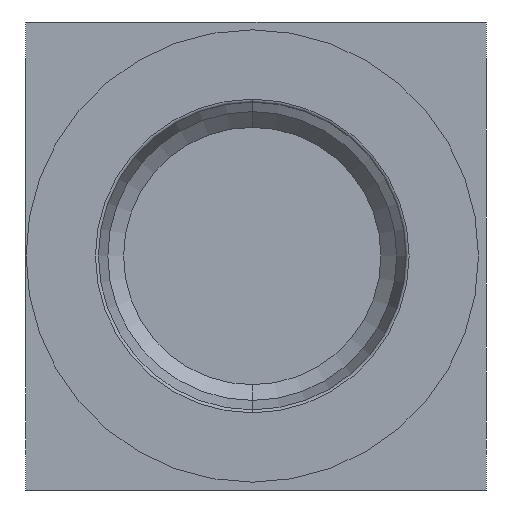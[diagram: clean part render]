
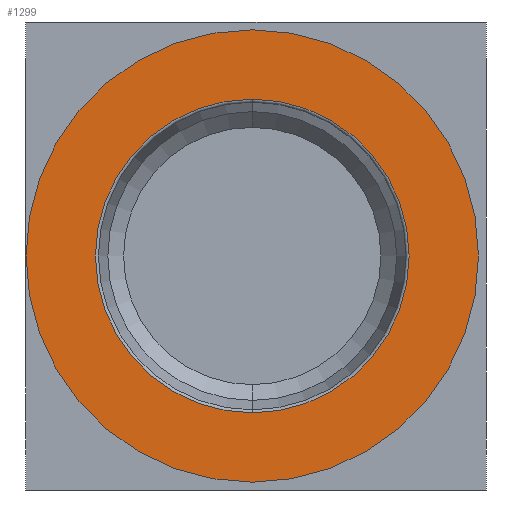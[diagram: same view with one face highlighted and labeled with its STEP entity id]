
A CAD part, left-side view. The second image highlights one B-rep face of the part: STEP entity #1299.
In plain terms, the highlighted planar face has unit normal (-1, 0, 0).
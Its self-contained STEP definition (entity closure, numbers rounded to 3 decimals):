
#1 = AXIS2_PLACEMENT_3D ( 'NONE', #8252, #8037, #4191 ) ;
#258 = AXIS2_PLACEMENT_3D ( 'NONE', #7609, #7593, #7561 ) ;
#590 = CARTESIAN_POINT ( 'NONE',  ( 0.3, 0.24, -14.5 ) ) ;
#624 = CIRCLE ( 'NONE', #1214, 10.053 ) ;
#667 = DIRECTION ( 'NONE',  ( -1., 0., 0. ) ) ;
#725 = DIRECTION ( 'NONE',  ( 0., 0., 1. ) ) ;
#948 = CIRCLE ( 'NONE', #258, 14.5 ) ;
#1002 = CIRCLE ( 'NONE', #1, 10.053 ) ;
#1214 = AXIS2_PLACEMENT_3D ( 'NONE', #3380, #3348, #3315 ) ;
#1299 = ADVANCED_FACE ( 'NONE', ( #6813, #1979 ), #8231, .T. ) ;
#1527 = VERTEX_POINT ( 'NONE', #4188 ) ;
#1777 = AXIS2_PLACEMENT_3D ( 'NONE', #590, #667, #725 ) ;
#1979 = FACE_BOUND ( 'NONE', #4523, .T. ) ;
#2224 = ORIENTED_EDGE ( 'NONE', *, *, #5074, .F. ) ;
#2902 = CARTESIAN_POINT ( 'NONE',  ( 0.3, 0.24, 14.5 ) ) ;
#3315 = DIRECTION ( 'NONE',  ( 0., 0., 1. ) ) ;
#3348 = DIRECTION ( 'NONE',  ( -1., 0., 0. ) ) ;
#3380 = CARTESIAN_POINT ( 'NONE',  ( 0.3, 0.24, 0. ) ) ;
#3621 = VERTEX_POINT ( 'NONE', #6754 ) ;
#3779 = EDGE_LOOP ( 'NONE', ( #6773, #6591 ) ) ;
#4188 = CARTESIAN_POINT ( 'NONE',  ( 0.3, 0.24, -14.5 ) ) ;
#4191 = DIRECTION ( 'NONE',  ( 0., 0., 1. ) ) ;
#4470 = CIRCLE ( 'NONE', #7347, 14.5 ) ;
#4523 = EDGE_LOOP ( 'NONE', ( #8001, #2224 ) ) ;
#4614 = VERTEX_POINT ( 'NONE', #7298 ) ;
#5074 = EDGE_CURVE ( 'NONE', #3621, #4614, #1002, .T. ) ;
#5107 = EDGE_CURVE ( 'NONE', #5830, #1527, #948, .T. ) ;
#5212 = EDGE_CURVE ( 'NONE', #4614, #3621, #624, .T. ) ;
#5830 = VERTEX_POINT ( 'NONE', #2902 ) ;
#6171 = EDGE_CURVE ( 'NONE', #1527, #5830, #4470, .T. ) ;
#6221 = DIRECTION ( 'NONE',  ( 0., 0., 1. ) ) ;
#6223 = DIRECTION ( 'NONE',  ( -1., 0., 0. ) ) ;
#6229 = CARTESIAN_POINT ( 'NONE',  ( 0.3, 0.24, 0. ) ) ;
#6591 = ORIENTED_EDGE ( 'NONE', *, *, #6171, .T. ) ;
#6754 = CARTESIAN_POINT ( 'NONE',  ( 0.3, 0.24, -10.053 ) ) ;
#6773 = ORIENTED_EDGE ( 'NONE', *, *, #5107, .T. ) ;
#6813 = FACE_OUTER_BOUND ( 'NONE', #3779, .T. ) ;
#7298 = CARTESIAN_POINT ( 'NONE',  ( 0.3, 0.24, 10.053 ) ) ;
#7347 = AXIS2_PLACEMENT_3D ( 'NONE', #6229, #6223, #6221 ) ;
#7561 = DIRECTION ( 'NONE',  ( 0., 0., 1. ) ) ;
#7593 = DIRECTION ( 'NONE',  ( -1., 0., 0. ) ) ;
#7609 = CARTESIAN_POINT ( 'NONE',  ( 0.3, 0.24, 0. ) ) ;
#8001 = ORIENTED_EDGE ( 'NONE', *, *, #5212, .F. ) ;
#8037 = DIRECTION ( 'NONE',  ( -1., 0., 0. ) ) ;
#8231 = PLANE ( 'NONE',  #1777 ) ;
#8252 = CARTESIAN_POINT ( 'NONE',  ( 0.3, 0.24, 0. ) ) ;
